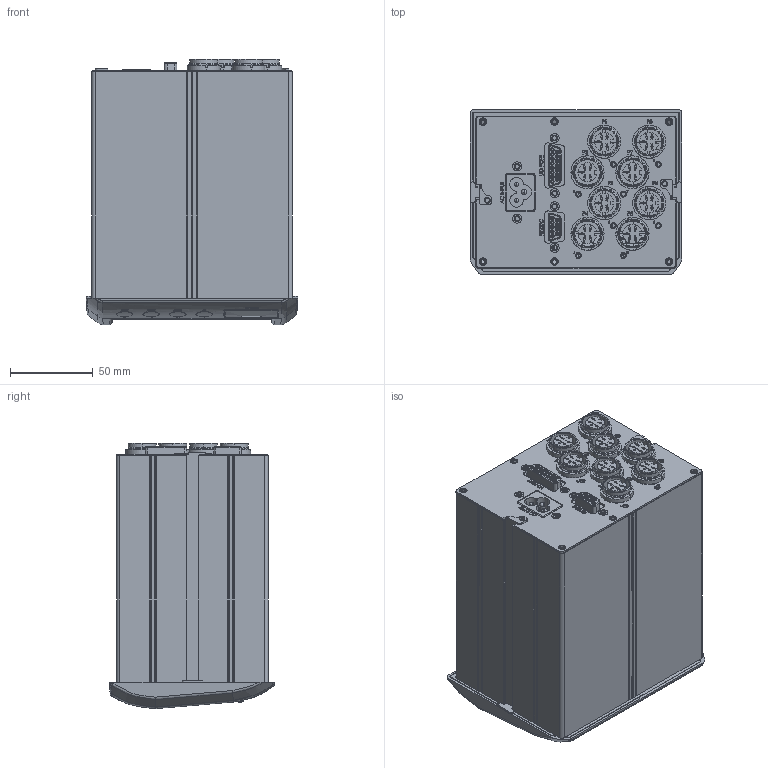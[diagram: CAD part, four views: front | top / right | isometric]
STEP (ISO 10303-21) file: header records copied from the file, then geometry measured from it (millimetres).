
FILE_DESCRIPTION (( 'STEP AP214' ), '1' );
FILE_NAME ('ML-MP_exteriror.STEP', '2015-10-08T10:55:27', ( 'ysgoodman' ), ( '' ), 'SwSTEP 2.0', 'SolidWorks 2014', '' );
FILE_SCHEMA (( 'AUTOMOTIVE_DESIGN' ));
Length unit declared in the file: millimetre
Products named in the file (1): ML-MP_exteriror
Bounding box: 127.6 x 99.47 x 160 mm (x, y, z)
Surface area: 217168.5 mm2 (no closed solid volume)
Topology: 0 solids, 136 shells, 1327 faces, 6557 edges, 5269 vertices
Faces by surface type: plane 576, cylinder 476, bspline 141, torus 64, cone 58, sphere 12
Entity records: 94871 total; most frequent: CARTESIAN_POINT 30787, DIRECTION 9264, ORIENTED_EDGE 9038, EDGE_CURVE 6544, VERTEX_POINT 5265, LINE 3576, VECTOR 3576, AXIS2_PLACEMENT_3D 2844
